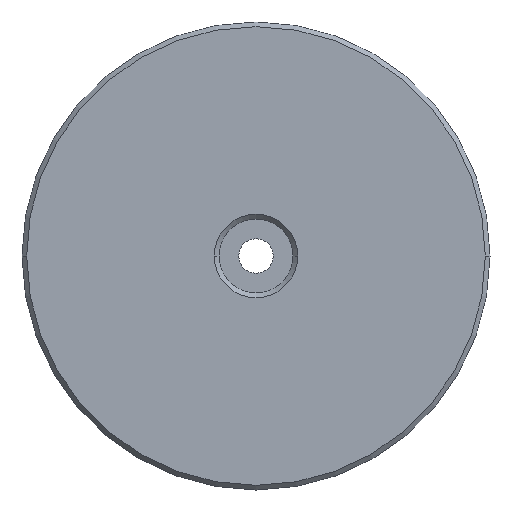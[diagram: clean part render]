
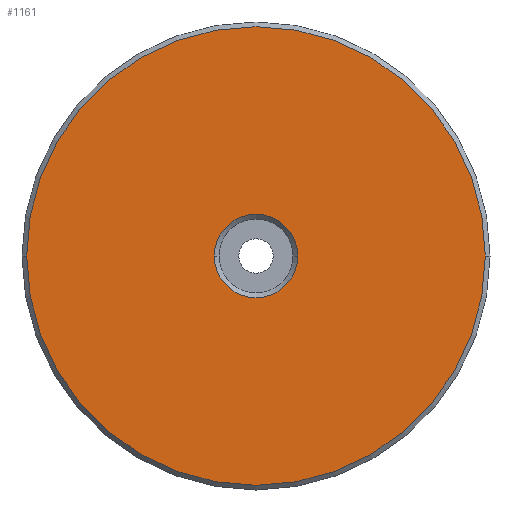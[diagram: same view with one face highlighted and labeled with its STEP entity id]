
A CAD part, front view. The second image highlights one B-rep face of the part: STEP entity #1161.
In plain terms, the highlighted planar face has unit normal (0, -1, 0).
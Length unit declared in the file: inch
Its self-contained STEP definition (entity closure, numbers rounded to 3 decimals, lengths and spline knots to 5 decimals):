
#57=CARTESIAN_POINT('',(0.,-0.125,0.));
#58=DIRECTION('',(0.,1.,0.));
#59=DIRECTION('',(1.,0.,0.));
#60=AXIS2_PLACEMENT_3D('',#57,#58,#59);
#62=CARTESIAN_POINT('',(0.,-0.125,0.));
#63=DIRECTION('',(0.,1.,0.));
#64=DIRECTION('',(-1.,0.,0.));
#65=AXIS2_PLACEMENT_3D('',#62,#63,#64);
#67=CARTESIAN_POINT('',(0.,-0.125,0.));
#68=DIRECTION('',(0.,-1.,0.));
#69=DIRECTION('',(1.,0.,0.));
#70=AXIS2_PLACEMENT_3D('',#67,#68,#69);
#72=CARTESIAN_POINT('',(0.,-0.125,0.));
#73=DIRECTION('',(0.,-1.,0.));
#74=DIRECTION('',(-1.,0.,0.));
#75=AXIS2_PLACEMENT_3D('',#72,#73,#74);
#1015=CARTESIAN_POINT('',(0.1335,-0.125,0.));
#1016=CARTESIAN_POINT('',(-0.1335,-0.125,0.));
#1017=VERTEX_POINT('',#1015);
#1018=VERTEX_POINT('',#1016);
#1023=CARTESIAN_POINT('',(0.735,-0.125,0.));
#1024=CARTESIAN_POINT('',(-0.735,-0.125,0.));
#1025=VERTEX_POINT('',#1023);
#1026=VERTEX_POINT('',#1024);
#1145=CARTESIAN_POINT('',(0.,-0.125,0.));
#1146=DIRECTION('',(0.,1.,0.));
#1147=DIRECTION('',(1.,0.,0.));
#1148=AXIS2_PLACEMENT_3D('',#1145,#1146,#1147);
#1149=PLANE('',#1148);
#1151=ORIENTED_EDGE('',*,*,#1150,.F.);
#1152=ORIENTED_EDGE('',*,*,#1135,.F.);
#1153=EDGE_LOOP('',(#1151,#1152));
#1154=FACE_OUTER_BOUND('',#1153,.F.);
#1156=ORIENTED_EDGE('',*,*,#1155,.F.);
#1158=ORIENTED_EDGE('',*,*,#1157,.F.);
#1159=EDGE_LOOP('',(#1156,#1158));
#1160=FACE_BOUND('',#1159,.F.);
#1161=ADVANCED_FACE('',(#1154,#1160),#1149,.F.);
#61=CIRCLE('',#60,0.1335);
#66=CIRCLE('',#65,0.1335);
#71=CIRCLE('',#70,0.735);
#76=CIRCLE('',#75,0.735);
#1135=EDGE_CURVE('',#1026,#1025,#76,.T.);
#1150=EDGE_CURVE('',#1025,#1026,#71,.T.);
#1155=EDGE_CURVE('',#1017,#1018,#61,.T.);
#1157=EDGE_CURVE('',#1018,#1017,#66,.T.);
